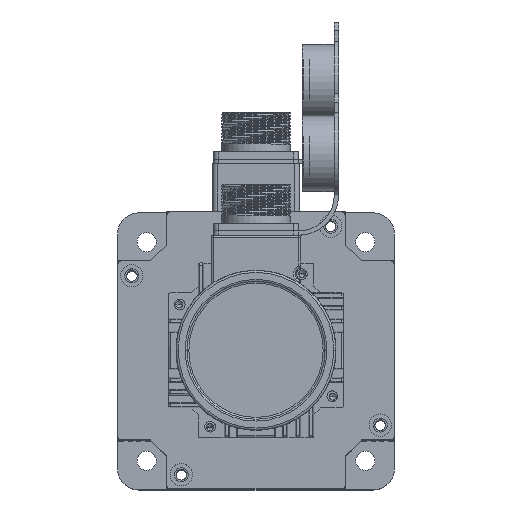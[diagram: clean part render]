
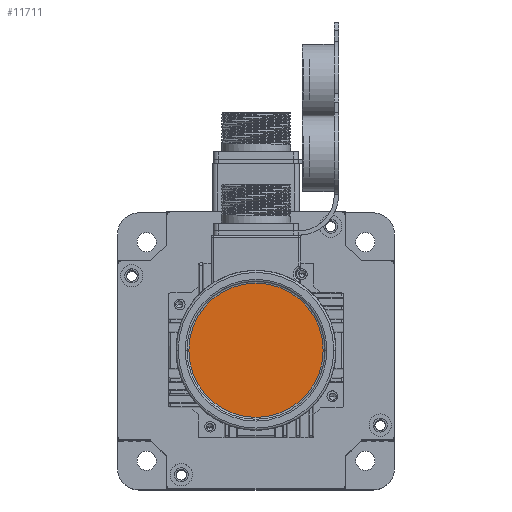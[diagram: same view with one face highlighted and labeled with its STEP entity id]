
A CAD part, top view. The second image highlights one B-rep face of the part: STEP entity #11711.
In plain terms, the highlighted planar face has unit normal (0, 0, 1) as drawn and (0, 0, -1) by its records, which use the part's own axes.
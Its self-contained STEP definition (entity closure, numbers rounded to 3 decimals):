
#7567 = AXIS2_PLACEMENT_3D ( 'NONE', #11445, #44847, #16231 ) ;
#10694 = CARTESIAN_POINT ( 'NONE',  ( 0., 0., -41.5 ) ) ;
#10911 = PLANE ( 'NONE',  #32633 ) ;
#11445 = CARTESIAN_POINT ( 'NONE',  ( 0., 0., -41.5 ) ) ;
#11711 = ADVANCED_FACE ( 'NONE', ( #15045 ), #10911, .T. ) ;
#12169 = CARTESIAN_POINT ( 'NONE',  ( -31.5, 0., -41.5 ) ) ;
#14466 = EDGE_CURVE ( 'NONE', #39603, #47397, #58887, .T. ) ;
#14517 = ORIENTED_EDGE ( 'NONE', *, *, #14466, .T. ) ;
#15045 = FACE_OUTER_BOUND ( 'NONE', #20212, .T. ) ;
#15453 = DIRECTION ( 'NONE',  ( -1., 0., 0. ) ) ;
#15684 = DIRECTION ( 'NONE',  ( 0., 0., -1. ) ) ;
#16231 = DIRECTION ( 'NONE',  ( -1., 0., 0. ) ) ;
#16503 = CIRCLE ( 'NONE', #41779, 31.5 ) ;
#20212 = EDGE_LOOP ( 'NONE', ( #14517, #51626 ) ) ;
#32633 = AXIS2_PLACEMENT_3D ( 'NONE', #44318, #15684, #49149 ) ;
#33681 = CARTESIAN_POINT ( 'NONE',  ( 31.5, 0., -41.5 ) ) ;
#39603 = VERTEX_POINT ( 'NONE', #12169 ) ;
#41779 = AXIS2_PLACEMENT_3D ( 'NONE', #10694, #44087, #15453 ) ;
#44087 = DIRECTION ( 'NONE',  ( 0., 0., -1. ) ) ;
#44318 = CARTESIAN_POINT ( 'NONE',  ( 0., 0., -41.5 ) ) ;
#44847 = DIRECTION ( 'NONE',  ( 0., 0., -1. ) ) ;
#47397 = VERTEX_POINT ( 'NONE', #33681 ) ;
#49149 = DIRECTION ( 'NONE',  ( -1., 0., 0. ) ) ;
#51626 = ORIENTED_EDGE ( 'NONE', *, *, #61055, .T. ) ;
#58887 = CIRCLE ( 'NONE', #7567, 31.5 ) ;
#61055 = EDGE_CURVE ( 'NONE', #47397, #39603, #16503, .T. ) ;
